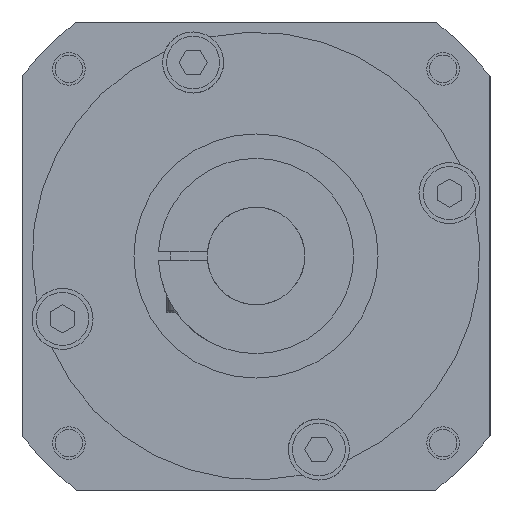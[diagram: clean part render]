
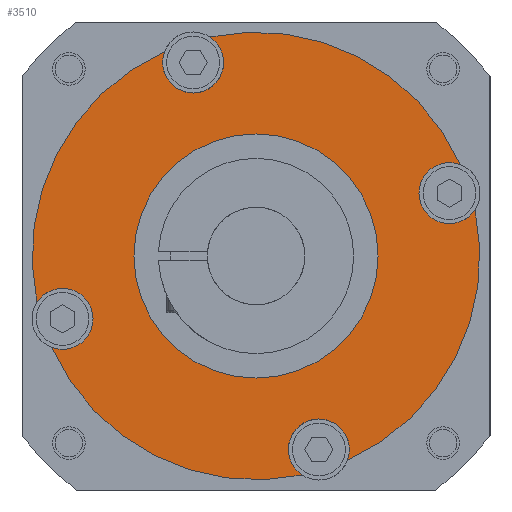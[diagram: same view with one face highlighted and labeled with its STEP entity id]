
A CAD part, left-side view. The second image highlights one B-rep face of the part: STEP entity #3510.
In plain terms, the highlighted planar face has unit normal (-1, 0, 0).
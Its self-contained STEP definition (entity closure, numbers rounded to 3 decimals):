
#103=CARTESIAN_POINT('',(4.4,0.,0.));
#104=DIRECTION('',(-1.,0.,0.));
#105=DIRECTION('',(0.,0.,1.));
#106=AXIS2_PLACEMENT_3D('',#103,#104,#105);
#112=CARTESIAN_POINT('',(4.4,0.,0.));
#113=DIRECTION('',(-1.,0.,0.));
#114=DIRECTION('',(0.,0.,-1.));
#115=AXIS2_PLACEMENT_3D('',#112,#113,#114);
#117=CARTESIAN_POINT('',(4.4,-47.553,15.451));
#118=DIRECTION('',(-1.,0.,0.));
#119=DIRECTION('',(0.,0.,-1.));
#120=AXIS2_PLACEMENT_3D('',#117,#118,#119);
#122=CARTESIAN_POINT('',(4.4,-15.451,-47.553));
#123=DIRECTION('',(-1.,0.,0.));
#124=DIRECTION('',(0.,-0.936,-0.353));
#125=AXIS2_PLACEMENT_3D('',#122,#123,#124);
#127=CARTESIAN_POINT('',(4.4,-15.451,-47.553));
#128=DIRECTION('',(-1.,0.,0.));
#129=DIRECTION('',(0.,0.,1.));
#130=AXIS2_PLACEMENT_3D('',#127,#128,#129);
#132=CARTESIAN_POINT('',(4.4,47.553,-15.451));
#133=DIRECTION('',(-1.,0.,0.));
#134=DIRECTION('',(0.,0.353,-0.936));
#135=AXIS2_PLACEMENT_3D('',#132,#133,#134);
#137=CARTESIAN_POINT('',(4.4,47.553,-15.451));
#138=DIRECTION('',(-1.,0.,0.));
#139=DIRECTION('',(0.,0.,-1.));
#140=AXIS2_PLACEMENT_3D('',#137,#138,#139);
#142=CARTESIAN_POINT('',(4.4,47.553,-15.451));
#143=DIRECTION('',(-1.,0.,0.));
#144=DIRECTION('',(0.,0.,1.));
#145=AXIS2_PLACEMENT_3D('',#142,#143,#144);
#147=CARTESIAN_POINT('',(4.4,15.451,47.553));
#148=DIRECTION('',(-1.,0.,0.));
#149=DIRECTION('',(0.,0.936,0.353));
#150=AXIS2_PLACEMENT_3D('',#147,#148,#149);
#152=CARTESIAN_POINT('',(4.4,15.451,47.553));
#153=DIRECTION('',(-1.,0.,0.));
#154=DIRECTION('',(0.,0.,-1.));
#155=AXIS2_PLACEMENT_3D('',#152,#153,#154);
#157=CARTESIAN_POINT('',(4.4,-47.553,15.451));
#158=DIRECTION('',(-1.,0.,0.));
#159=DIRECTION('',(0.,-0.353,0.936));
#160=AXIS2_PLACEMENT_3D('',#157,#158,#159);
#162=CARTESIAN_POINT('',(4.4,-47.553,15.451));
#163=DIRECTION('',(-1.,0.,0.));
#164=DIRECTION('',(0.,0.,1.));
#165=AXIS2_PLACEMENT_3D('',#162,#163,#164);
#399=CARTESIAN_POINT('',(4.4,0.,0.));
#400=DIRECTION('',(-1.,0.,0.));
#401=DIRECTION('',(0.,-0.913,0.409));
#402=AXIS2_PLACEMENT_3D('',#399,#400,#401);
#408=CARTESIAN_POINT('',(4.4,0.,0.));
#409=DIRECTION('',(-1.,0.,0.));
#410=DIRECTION('',(0.,-0.409,-0.913));
#411=AXIS2_PLACEMENT_3D('',#408,#409,#410);
#434=CARTESIAN_POINT('',(4.4,0.,0.));
#435=DIRECTION('',(1.,0.,0.));
#436=DIRECTION('',(0.,-0.206,-0.979));
#437=AXIS2_PLACEMENT_3D('',#434,#435,#436);
#448=CARTESIAN_POINT('',(4.4,0.,0.));
#449=DIRECTION('',(-1.,0.,0.));
#450=DIRECTION('',(0.,0.409,0.913));
#451=AXIS2_PLACEMENT_3D('',#448,#449,#450);
#3024=CARTESIAN_POINT('',(4.4,-15.451,-40.053));
#3025=VERTEX_POINT('',#3024);
#3026=CARTESIAN_POINT('',(4.4,15.451,40.053));
#3027=VERTEX_POINT('',#3026);
#3160=CARTESIAN_POINT('',(4.4,0.,-30.));
#3161=VERTEX_POINT('',#3160);
#3162=CARTESIAN_POINT('',(4.4,0.,30.));
#3163=VERTEX_POINT('',#3162);
#3300=CARTESIAN_POINT('',(4.4,-22.468,-50.202));
#3301=VERTEX_POINT('',#3300);
#3302=CARTESIAN_POINT('',(4.4,-11.331,-53.82));
#3303=VERTEX_POINT('',#3302);
#3304=CARTESIAN_POINT('',(4.4,50.202,-22.468));
#3305=VERTEX_POINT('',#3304);
#3306=CARTESIAN_POINT('',(4.4,53.82,-11.331));
#3307=VERTEX_POINT('',#3306);
#3308=CARTESIAN_POINT('',(4.4,-50.202,22.468));
#3309=VERTEX_POINT('',#3308);
#3310=CARTESIAN_POINT('',(4.4,-53.82,11.331));
#3311=VERTEX_POINT('',#3310);
#3312=CARTESIAN_POINT('',(4.4,11.331,53.82));
#3313=VERTEX_POINT('',#3312);
#3314=CARTESIAN_POINT('',(4.4,22.468,50.202));
#3315=VERTEX_POINT('',#3314);
#3316=CARTESIAN_POINT('',(4.4,-47.553,7.951));
#3317=VERTEX_POINT('',#3316);
#3318=CARTESIAN_POINT('',(4.4,-47.553,22.951));
#3319=VERTEX_POINT('',#3318);
#3320=CARTESIAN_POINT('',(4.4,47.553,-22.951));
#3321=CARTESIAN_POINT('',(4.4,47.553,-7.951));
#3322=VERTEX_POINT('',#3320);
#3323=VERTEX_POINT('',#3321);
#3471=CARTESIAN_POINT('',(4.4,0.,0.));
#3472=DIRECTION('',(1.,0.,0.));
#3473=DIRECTION('',(0.,1.,0.));
#3474=AXIS2_PLACEMENT_3D('',#3471,#3472,#3473);
#3475=PLANE('',#3474);
#3477=ORIENTED_EDGE('',*,*,#3476,.T.);
#3479=ORIENTED_EDGE('',*,*,#3478,.F.);
#3481=ORIENTED_EDGE('',*,*,#3480,.T.);
#3483=ORIENTED_EDGE('',*,*,#3482,.T.);
#3485=ORIENTED_EDGE('',*,*,#3484,.T.);
#3487=ORIENTED_EDGE('',*,*,#3486,.T.);
#3489=ORIENTED_EDGE('',*,*,#3488,.T.);
#3491=ORIENTED_EDGE('',*,*,#3490,.T.);
#3493=ORIENTED_EDGE('',*,*,#3492,.F.);
#3495=ORIENTED_EDGE('',*,*,#3494,.T.);
#3497=ORIENTED_EDGE('',*,*,#3496,.T.);
#3499=ORIENTED_EDGE('',*,*,#3498,.F.);
#3501=ORIENTED_EDGE('',*,*,#3500,.T.);
#3503=ORIENTED_EDGE('',*,*,#3502,.T.);
#3504=EDGE_LOOP('',(#3477,#3479,#3481,#3483,#3485,#3487,#3489,#3491,#3493,#3495,
#3497,#3499,#3501,#3503));
#3505=FACE_OUTER_BOUND('',#3504,.F.);
#3506=ORIENTED_EDGE('',*,*,#3450,.T.);
#3507=ORIENTED_EDGE('',*,*,#3466,.T.);
#3508=EDGE_LOOP('',(#3506,#3507));
#3509=FACE_BOUND('',#3508,.F.);
#107=CIRCLE('',#106,30.);
#116=CIRCLE('',#115,30.);
#121=CIRCLE('',#120,7.5);
#126=CIRCLE('',#125,7.5);
#131=CIRCLE('',#130,7.5);
#136=CIRCLE('',#135,7.5);
#141=CIRCLE('',#140,7.5);
#146=CIRCLE('',#145,7.5);
#151=CIRCLE('',#150,7.5);
#156=CIRCLE('',#155,7.5);
#161=CIRCLE('',#160,7.5);
#166=CIRCLE('',#165,7.5);
#403=CIRCLE('',#402,55.);
#412=CIRCLE('',#411,55.);
#438=CIRCLE('',#437,55.);
#452=CIRCLE('',#451,55.);
#3450=EDGE_CURVE('',#3163,#3161,#107,.T.);
#3466=EDGE_CURVE('',#3161,#3163,#116,.T.);
#3476=EDGE_CURVE('',#3317,#3311,#121,.T.);
#3478=EDGE_CURVE('',#3301,#3311,#412,.T.);
#3480=EDGE_CURVE('',#3301,#3025,#126,.T.);
#3482=EDGE_CURVE('',#3025,#3303,#131,.T.);
#3484=EDGE_CURVE('',#3303,#3305,#438,.T.);
#3486=EDGE_CURVE('',#3305,#3322,#136,.T.);
#3488=EDGE_CURVE('',#3322,#3323,#141,.T.);
#3490=EDGE_CURVE('',#3323,#3307,#146,.T.);
#3492=EDGE_CURVE('',#3315,#3307,#452,.T.);
#3494=EDGE_CURVE('',#3315,#3027,#151,.T.);
#3496=EDGE_CURVE('',#3027,#3313,#156,.T.);
#3498=EDGE_CURVE('',#3309,#3313,#403,.T.);
#3500=EDGE_CURVE('',#3309,#3319,#161,.T.);
#3502=EDGE_CURVE('',#3319,#3317,#166,.T.);
#3510=ADVANCED_FACE('',(#3505,#3509),#3475,.F.);
